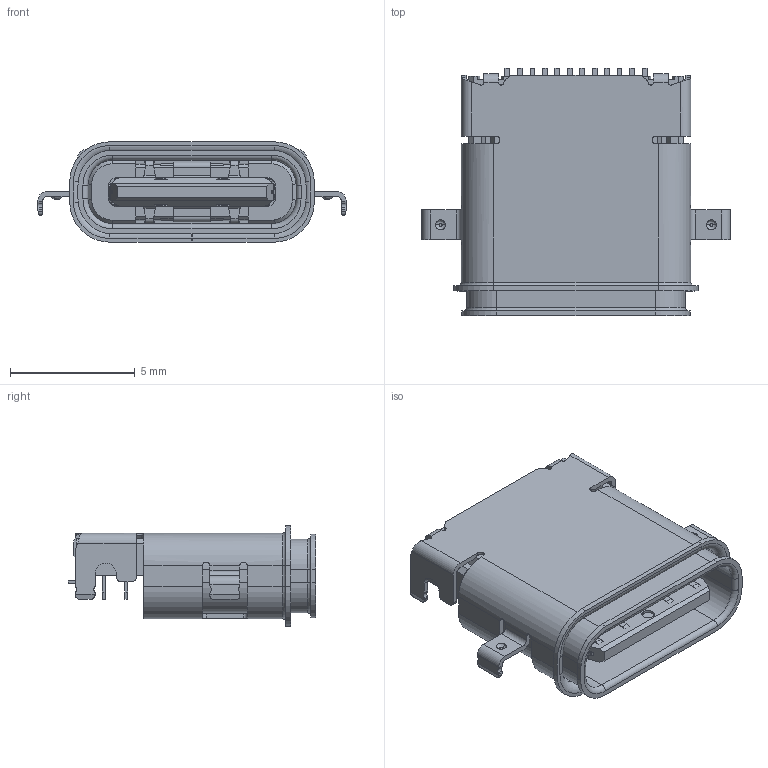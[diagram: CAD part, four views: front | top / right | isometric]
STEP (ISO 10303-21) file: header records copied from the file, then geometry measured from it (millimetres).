
FILE_DESCRIPTION((''),'2;1');
FILE_NAME('USB_TYPE-C_24_ASM_ASM','2022-05-18T23:11:56',('Administrator'),(''),'CREO PARAMETRIC BY PTC INC, 2018100','CREO PARAMETRIC BY PTC INC, 2018100','');
FILE_SCHEMA(('CONFIG_CONTROL_DESIGN'));
Length unit declared in the file: millimetre
Products named in the file (1): USB_TYPE-C_24_ASM_ASM
Bounding box: 12.35 x 9.94 x 4.02 mm (x, y, z)
Volume: 150.7 mm3; surface area: 1103 mm2
Topology: 1 solids, 29 shells, 2908 faces, 7816 edges, 4865 vertices
Faces by surface type: plane 1806, cylinder 886, bspline 170, cone 26, torus 20
Entity records: 94759 total; most frequent: CARTESIAN_POINT 23187, ORIENTED_EDGE 15340, DIRECTION 14178, EDGE_CURVE 7816, VECTOR 5336, LINE 5336, VERTEX_POINT 4865, AXIS2_PLACEMENT_3D 4421
